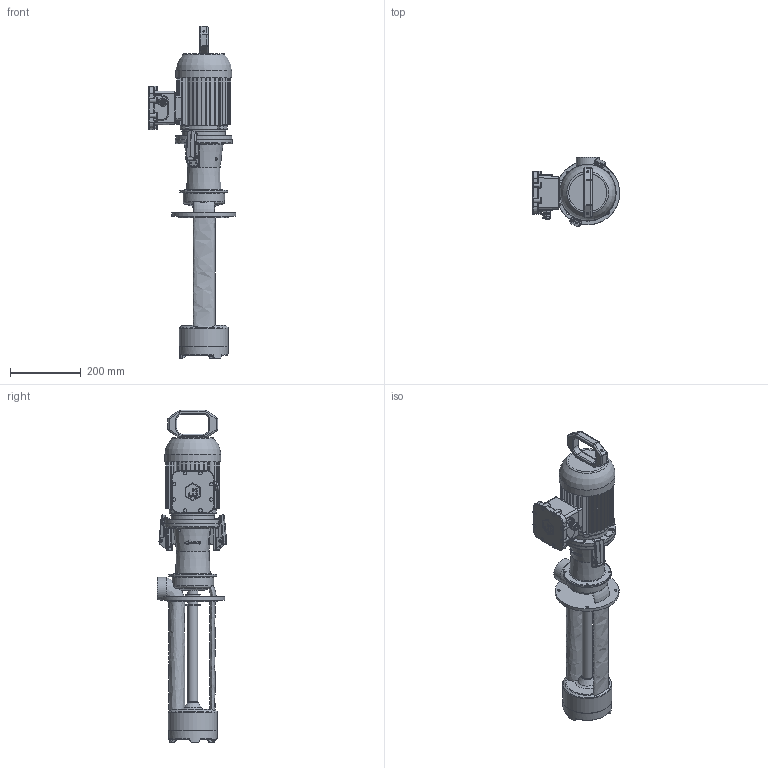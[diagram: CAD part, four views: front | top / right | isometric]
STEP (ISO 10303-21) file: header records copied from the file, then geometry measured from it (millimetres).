
FILE_DESCRIPTION(/* description */ ('Unknown'),/* implementation_level */ '2;1');
FILE_NAME(/* name */ 'EP EX 252-400',/* time_stamp */ '2025-06-03T09:16:45+03:00',/* author */ ('Unknown'),/* organization */ ('Unknown'),/* preprocessor_version */ 'ST-DEVELOPER v16.7',/* originating_system */ 'DEX',/* authorisation */ $);
FILE_SCHEMA (('AUTOMOTIVE_DESIGN {1 0 10303 214 3 1 1}'));
Length unit declared in the file: millimetre
Products named in the file (1): EP EX 252-400
Bounding box: 246.5 x 195.43 x 936.45 mm (x, y, z)
Volume: 8688065.5 mm3; surface area: 774890.1 mm2
Topology: 1 solids, 22 shells, 2297 faces, 6058 edges, 3779 vertices
Faces by surface type: cylinder 802, plane 730, bspline 404, torus 201, cone 113, sphere 47
Full cylindrical faces by diameter (mm): 3 x12, 3.242 x16, 4 x10, 4.134 x24, 4.9 x4, 5 x90, 5.3 x4, 5.5 x2, 5.7 x8, 6 x8, 7 x8, 8 x3, 9.5 x8, 12 x1, 13 x2, 13.962 x1, 16 x1, 18.348 x1, 18.376 x5, 19 x1, 20 x2, 21.8 x2, 28 x1, 29 x3, 30 x1, 42 x3, 44 x1, 48 x1, 62 x1, 73 x1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
Entity records: 109777 total; most frequent: CARTESIAN_POINT 43445, ORIENTED_EDGE 10866, DIRECTION 9982, EDGE_CURVE 5433, AXIS2_PLACEMENT_3D 4017, VERTEX_POINT 3586, FACE_BOUND 2697, EDGE_LOOP 2689
